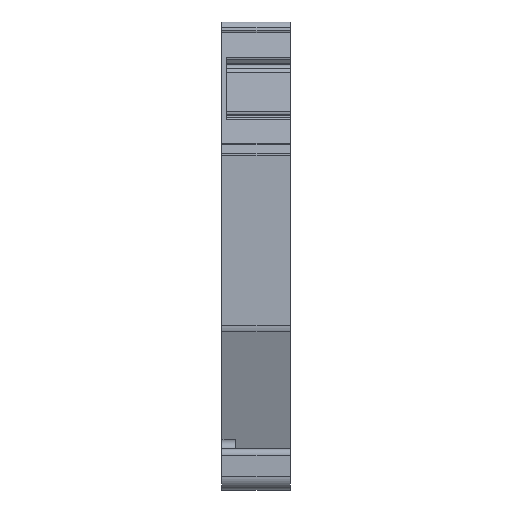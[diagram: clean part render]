
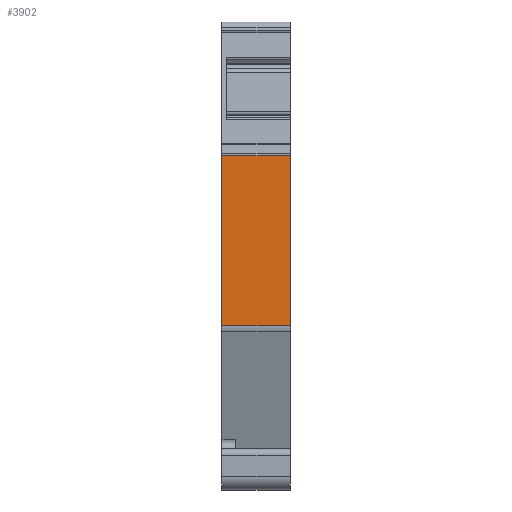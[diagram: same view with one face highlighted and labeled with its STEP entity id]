
A CAD part, left-side view. The second image highlights one B-rep face of the part: STEP entity #3902.
In plain terms, the highlighted planar face has unit normal (-1, 0, 0).
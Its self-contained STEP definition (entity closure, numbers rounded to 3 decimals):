
#256=LINE('',#5617,#561);
#321=LINE('',#5771,#626);
#322=LINE('',#5773,#627);
#323=LINE('',#5775,#628);
#561=VECTOR('',#4748,1000.);
#626=VECTOR('',#4883,1000.);
#627=VECTOR('',#4886,1000.);
#628=VECTOR('',#4887,1000.);
#1223=ORIENTED_EDGE('',*,*,#1903,.T.);
#1224=ORIENTED_EDGE('',*,*,#1902,.F.);
#1225=ORIENTED_EDGE('',*,*,#1825,.F.);
#1226=ORIENTED_EDGE('',*,*,#1904,.T.);
#1825=EDGE_CURVE('',#2184,#2185,#256,.T.);
#1902=EDGE_CURVE('',#2185,#2238,#321,.T.);
#1903=EDGE_CURVE('',#2239,#2238,#322,.T.);
#1904=EDGE_CURVE('',#2184,#2239,#323,.T.);
#2184=VERTEX_POINT('',#5616);
#2185=VERTEX_POINT('',#5618);
#2238=VERTEX_POINT('',#5770);
#2239=VERTEX_POINT('',#5774);
#2507=EDGE_LOOP('',(#1223,#1224,#1225,#1226));
#2656=FACE_BOUND('',#2507,.T.);
#2759=PLANE('',#4161);
#3902=ADVANCED_FACE('',(#2656),#2759,.F.);
#4161=AXIS2_PLACEMENT_3D('',#5772,#4884,#4885);
#4748=DIRECTION('',(0.,0.,1.));
#4883=DIRECTION('',(0.,-1.,0.));
#4884=DIRECTION('',(1.,0.,0.));
#4885=DIRECTION('',(0.,0.,-1.));
#4886=DIRECTION('',(0.,0.,1.));
#4887=DIRECTION('',(0.,-1.,0.));
#5616=CARTESIAN_POINT('',(-18.5,4.95,-5.056));
#5617=CARTESIAN_POINT('',(-18.5,4.95,7.286));
#5618=CARTESIAN_POINT('',(-18.5,4.95,7.286));
#5770=CARTESIAN_POINT('',(-18.5,0.,7.286));
#5771=CARTESIAN_POINT('',(-18.5,4.95,7.286));
#5772=CARTESIAN_POINT('',(-18.5,4.95,7.286));
#5773=CARTESIAN_POINT('',(-18.5,0.,7.286));
#5774=CARTESIAN_POINT('',(-18.5,0.,-5.056));
#5775=CARTESIAN_POINT('',(-18.5,4.95,-5.056));
